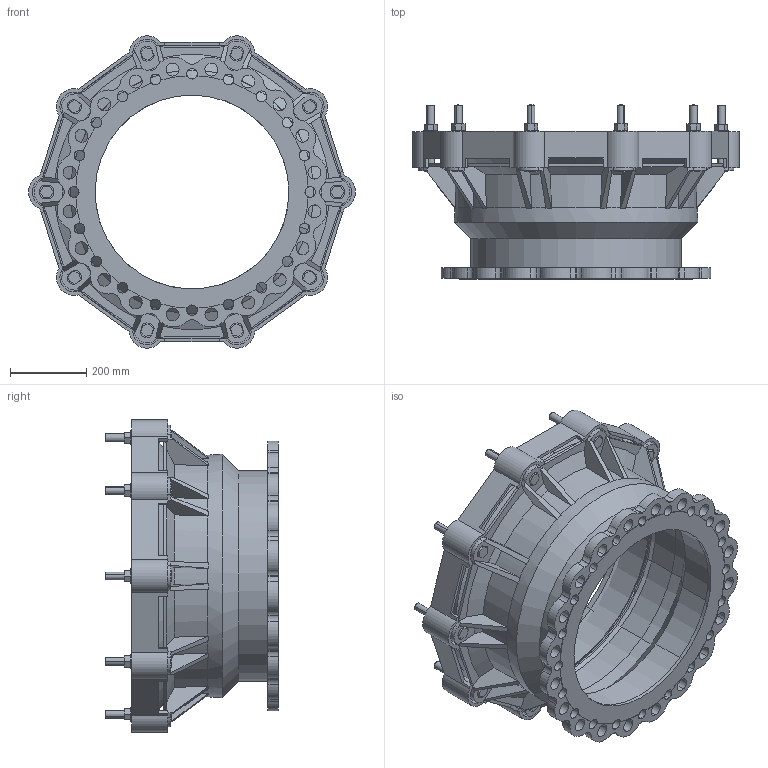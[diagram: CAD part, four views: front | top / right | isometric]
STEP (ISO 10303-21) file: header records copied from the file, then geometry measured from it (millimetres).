
FILE_DESCRIPTION((''),'2;1');
FILE_NAME('_BIM_13199_4_ASM','2018-11-07T',('MReader'),(''),'CREO PARAMETRIC BY PTC INC, 2016130','CREO PARAMETRIC BY PTC INC, 2016130','');
FILE_SCHEMA(('CONFIG_CONTROL_DESIGN'));
Length unit declared in the file: millimetre
Products named in the file (6): 558-608X500; 558-608_GASKET_BIM; _BIM_13417_3; BIM_M20_BOLT; BIM_M20_NUT; _BIM_13199_4_ASM
Assembly tree (23 placements, depth 2):
  _BIM_13199_4_ASM
    558-608X500
    558-608_GASKET_BIM
    _BIM_13417_3
    BIM_M20_BOLT  x10
    BIM_M20_NUT  x10
Bounding box: 856 x 456 x 818.68 mm (x, y, z)
Volume: 22814211.6 mm3; surface area: 3685041.3 mm2
Topology: 23 solids, 23 shells, 786 faces, 2170 edges, 1424 vertices
Faces by surface type: plane 360, cylinder 344, cone 62, sphere 20
Entity records: 20209 total; most frequent: CARTESIAN_POINT 3895, DIRECTION 3498, ORIENTED_EDGE 3400, EDGE_CURVE 1700, AXIS2_PLACEMENT_3D 1370, VERTEX_POINT 1127, CIRCLE 762, VECTOR 758
